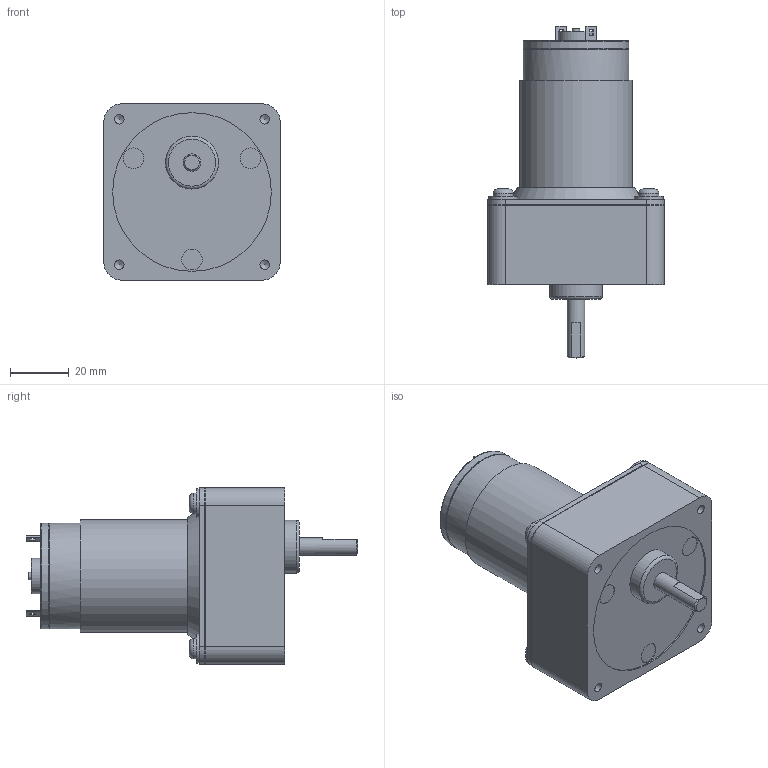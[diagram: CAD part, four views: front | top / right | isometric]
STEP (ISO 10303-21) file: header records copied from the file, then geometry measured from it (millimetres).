
FILE_DESCRIPTION((''),'2;1');
FILE_NAME('C:\Documents and Settings\SSEGAWA\デスクトップ\TP-3850A-CE.STP','2013-07-29T09:48:01',('SSEGAWA'),(''),'Autodesk Inventor 2010','Autodesk Inventor 2010','');
FILE_SCHEMA(('CONFIG_CONTROL_DESIGN'));
Length unit declared in the file: millimetre
Products named in the file (1): tp_3850a_ce_Shrinkwrap_1
Bounding box: 60 x 113 x 60 mm (x, y, z)
Volume: 166568.2 mm3; surface area: 22636.5 mm2
Topology: 1 solids, 4 shells, 124 faces, 269 edges, 176 vertices
Faces by surface type: plane 60, cylinder 35, bspline 18, torus 8, cone 3
Full cylindrical faces by diameter (mm): 2.5 x1, 3 x1, 4.5 x1, 6 x1, 6.8 x4, 7 x3, 9.8 x4, 12 x1, 18 x1, 35.6 x1, 36 x2, 54 x1
Entity records: 3357 total; most frequent: CARTESIAN_POINT 734, DIRECTION 519, ORIENTED_EDGE 418, EDGE_CURVE 209, AXIS2_PLACEMENT_3D 205, EDGE_LOOP 197, VERTEX_POINT 160, STYLED_ITEM 125
